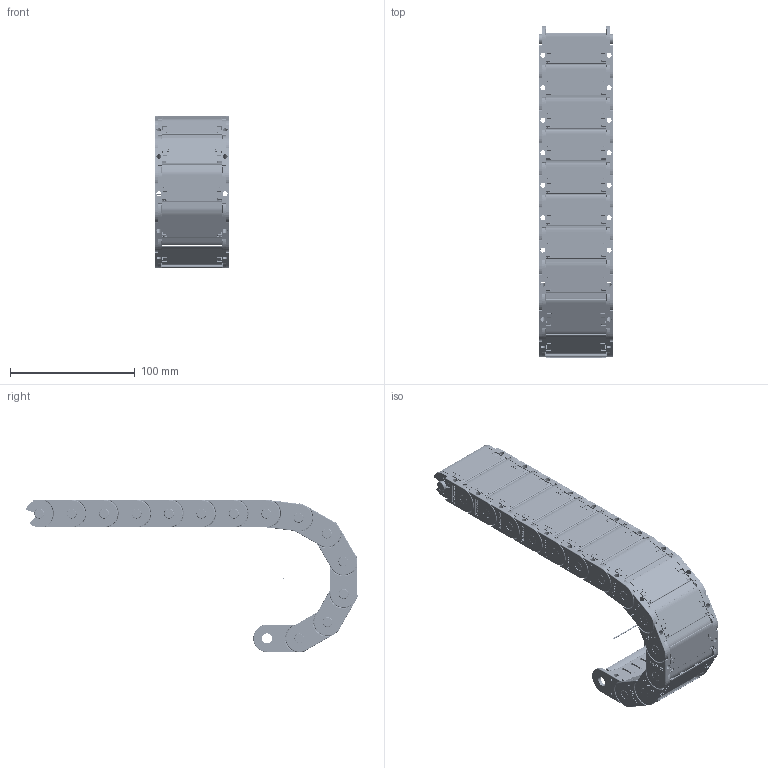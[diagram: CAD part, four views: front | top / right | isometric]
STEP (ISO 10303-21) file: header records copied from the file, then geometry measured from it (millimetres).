
FILE_DESCRIPTION((''),'2;1');
FILE_NAME('E:\Uebbing\PARAMETERKETTEN\KOLIBRI\Kol_22_060_5\KOLIBRI 22_060_5_R50.stp','2021-07-01T14:33:27',('Nutzer'),(''),'Autodesk Inventor 10','Autodesk Inventor 10','');
FILE_SCHEMA(('AUTOMOTIVE_DESIGN { 1 0 10303 214 1 1 1 1 }'));
Length unit declared in the file: millimetre
Products named in the file (5): KOLIBRI 22_060_5_50 ANr 1259; Kol_22_060_5; Kol_22_060_5_Klappdeckel; Kol_22_060_5_Lasche; Achse
Assembly tree (17 placements, depth 3):
  KOLIBRI 22_060_5_50 ANr 1259
    Kol_22_060_5  x14
      Kol_22_060_5_Klappdeckel
      Kol_22_060_5_Lasche
    Achse
Bounding box: 60 x 265.84 x 122.22 mm (x, y, z)
Volume: 138888.7 mm3; surface area: 171647.2 mm2
Topology: 57 solids, 57 shells, 9747 faces, 26394 edges, 17279 vertices
Faces by surface type: bspline 4620, plane 3348, cylinder 1667, torus 56, cone 28, sphere 28
Full cylindrical faces by diameter (mm): 0.804 x14, 1 x1, 1.412 x14, 1.8 x28, 2 x28, 4 x70, 5 x14, 8 x28
Entity records: 23862 total; most frequent: CARTESIAN_POINT 7007, ORIENTED_EDGE 3678, DIRECTION 3051, EDGE_CURVE 1839, VECTOR 1319, LINE 1319, VERTEX_POINT 1224, AXIS2_PLACEMENT_3D 866
